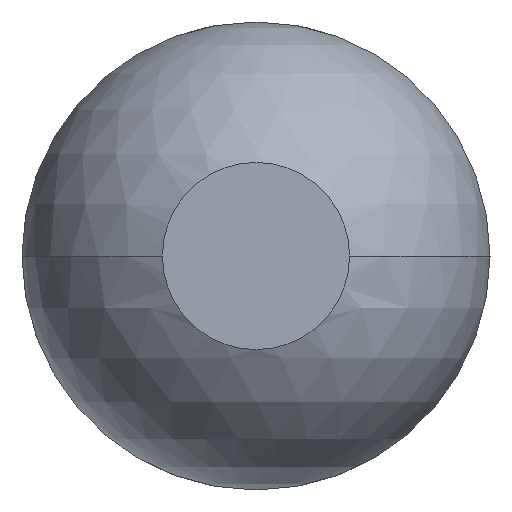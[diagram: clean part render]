
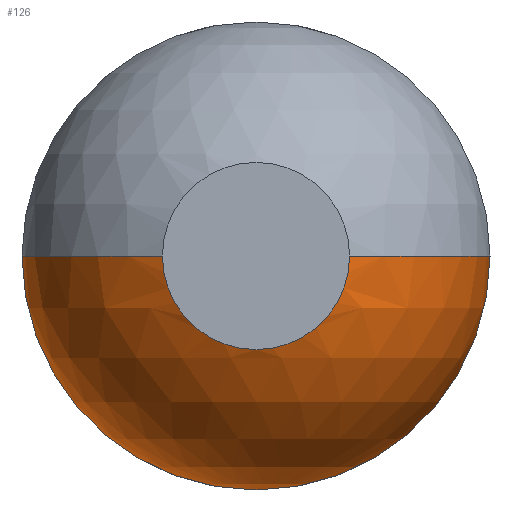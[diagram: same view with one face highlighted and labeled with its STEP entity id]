
A CAD part, left-side view. The second image highlights one B-rep face of the part: STEP entity #126.
In plain terms, the highlighted spherical face has radius 0.254 mm.
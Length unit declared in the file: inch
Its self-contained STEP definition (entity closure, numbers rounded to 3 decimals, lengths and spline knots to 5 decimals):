
#27 = CARTESIAN_POINT ( 'NONE',  ( 0.00917, 0., 0. ) ) ;
#31 = AXIS2_PLACEMENT_3D ( 'NONE', #500, #528, #974 ) ;
#53 = CIRCLE ( 'NONE', #205, 0.01 ) ;
#56 = EDGE_CURVE ( 'NONE', #180, #663, #53, .T. ) ;
#83 = FACE_OUTER_BOUND ( 'NONE', #1010, .T. ) ;
#85 = CARTESIAN_POINT ( 'NONE',  ( 0.00917, 0., 0. ) ) ;
#100 = CARTESIAN_POINT ( 'NONE',  ( 0., -0.004, 0. ) ) ;
#126 = ADVANCED_FACE ( 'NONE', ( #83 ), #157, .T. ) ;
#157 = SPHERICAL_SURFACE ( 'NONE', #1060, 0.01 ) ;
#162 = DIRECTION ( 'NONE',  ( 0., 0., -1. ) ) ;
#169 = CARTESIAN_POINT ( 'NONE',  ( 0.00917, 0., 0. ) ) ;
#180 = VERTEX_POINT ( 'NONE', #359 ) ;
#205 = AXIS2_PLACEMENT_3D ( 'NONE', #169, #328, #526 ) ;
#256 = AXIS2_PLACEMENT_3D ( 'NONE', #27, #746, #908 ) ;
#284 = AXIS2_PLACEMENT_3D ( 'NONE', #1145, #1139, #781 ) ;
#328 = DIRECTION ( 'NONE',  ( -1., 0., 0. ) ) ;
#359 = CARTESIAN_POINT ( 'NONE',  ( 0.00917, 0.01, 0. ) ) ;
#413 = CARTESIAN_POINT ( 'NONE',  ( 0.00917, -0.01, 0. ) ) ;
#416 = VERTEX_POINT ( 'NONE', #1056 ) ;
#444 = DIRECTION ( 'NONE',  ( 0., 1., 0. ) ) ;
#500 = CARTESIAN_POINT ( 'NONE',  ( 0., 0., 0. ) ) ;
#523 = EDGE_CURVE ( 'NONE', #663, #935, #786, .T. ) ;
#526 = DIRECTION ( 'NONE',  ( 0., 0., 1. ) ) ;
#528 = DIRECTION ( 'NONE',  ( -1., 0., 0. ) ) ;
#596 = CIRCLE ( 'NONE', #31, 0.004 ) ;
#601 = ORIENTED_EDGE ( 'NONE', *, *, #937, .T. ) ;
#620 = VERTEX_POINT ( 'NONE', #100 ) ;
#663 = VERTEX_POINT ( 'NONE', #971 ) ;
#727 = EDGE_CURVE ( 'NONE', #180, #416, #758, .T. ) ;
#746 = DIRECTION ( 'NONE',  ( 0., 0., 1. ) ) ;
#758 = CIRCLE ( 'NONE', #256, 0.01 ) ;
#781 = DIRECTION ( 'NONE',  ( 0., 0., 1. ) ) ;
#786 = CIRCLE ( 'NONE', #284, 0.01 ) ;
#795 = ORIENTED_EDGE ( 'NONE', *, *, #523, .T. ) ;
#826 = ORIENTED_EDGE ( 'NONE', *, *, #56, .T. ) ;
#888 = DIRECTION ( 'NONE',  ( 0., 0., -1. ) ) ;
#901 = EDGE_CURVE ( 'NONE', #416, #620, #596, .T. ) ;
#908 = DIRECTION ( 'NONE',  ( 1., 0., 0. ) ) ;
#935 = VERTEX_POINT ( 'NONE', #413 ) ;
#937 = EDGE_CURVE ( 'NONE', #935, #620, #1095, .T. ) ;
#960 = CARTESIAN_POINT ( 'NONE',  ( 0.00917, 0., 0. ) ) ;
#971 = CARTESIAN_POINT ( 'NONE',  ( 0.00917, 0., -0.01 ) ) ;
#974 = DIRECTION ( 'NONE',  ( 0., 0., 1. ) ) ;
#982 = ORIENTED_EDGE ( 'NONE', *, *, #901, .F. ) ;
#1010 = EDGE_LOOP ( 'NONE', ( #795, #601, #982, #1138, #826 ) ) ;
#1041 = AXIS2_PLACEMENT_3D ( 'NONE', #85, #888, #444 ) ;
#1056 = CARTESIAN_POINT ( 'NONE',  ( 0., 0.004, 0. ) ) ;
#1060 = AXIS2_PLACEMENT_3D ( 'NONE', #960, #162, #1141 ) ;
#1095 = CIRCLE ( 'NONE', #1041, 0.01 ) ;
#1138 = ORIENTED_EDGE ( 'NONE', *, *, #727, .F. ) ;
#1139 = DIRECTION ( 'NONE',  ( -1., 0., 0. ) ) ;
#1141 = DIRECTION ( 'NONE',  ( 0., 1., 0. ) ) ;
#1145 = CARTESIAN_POINT ( 'NONE',  ( 0.00917, 0., 0. ) ) ;
